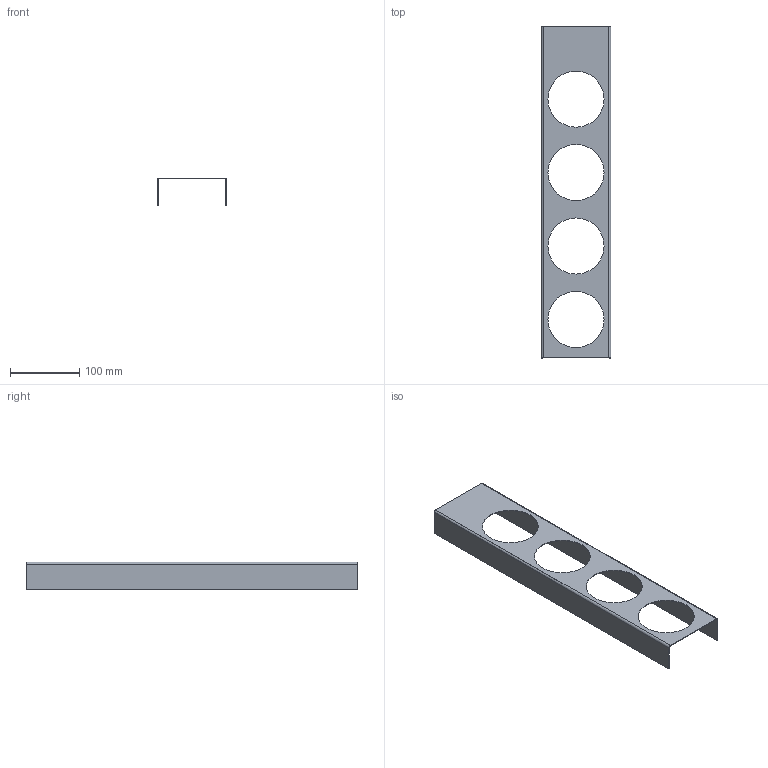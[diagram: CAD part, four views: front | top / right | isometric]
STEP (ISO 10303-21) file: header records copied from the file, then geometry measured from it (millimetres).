
FILE_DESCRIPTION (( 'STEP AP214' ), '1' );
FILE_NAME ('Gewuerzeinsatz_68316-01.STEP', '2010-10-25T13:44:50', ( 'grass' ), ( '' ), 'SwSTEP 2.0', 'SolidWorks 2010', '' );
FILE_SCHEMA (( 'AUTOMOTIVE_DESIGN' ));
Length unit declared in the file: millimetre
Products named in the file (1): Gewuerzeinsatz_68316-01
Bounding box: 100 x 479 x 40 mm (x, y, z)
Volume: 63622.1 mm3; surface area: 129571.7 mm2
Topology: 1 solids, 1 shells, 22 faces, 60 edges, 40 vertices
Faces by surface type: cylinder 12, plane 10
Entity records: 758 total; most frequent: DIRECTION 130, CARTESIAN_POINT 123, ORIENTED_EDGE 120, EDGE_CURVE 60, AXIS2_PLACEMENT_3D 47, VERTEX_POINT 40, VECTOR 36, LINE 36
